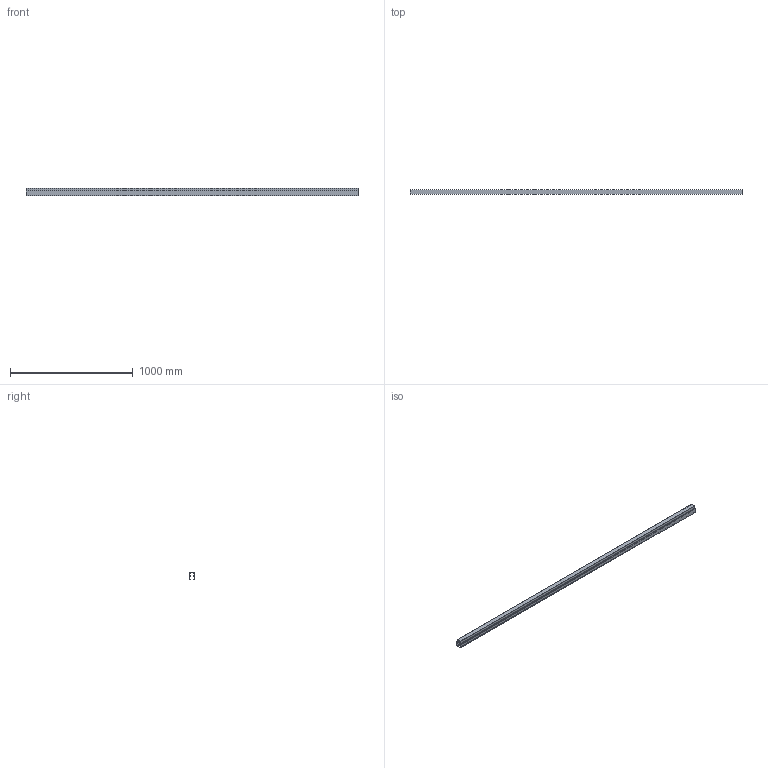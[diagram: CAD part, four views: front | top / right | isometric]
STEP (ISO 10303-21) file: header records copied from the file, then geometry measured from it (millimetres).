
FILE_DESCRIPTION(('STEP AP242'),'1');
FILE_NAME('OPO_65.084.02_volu_3d.stp','2026-02-23T17:27:52',(' '),(' '),'Spatial InterOp 3D',' ',' ');
FILE_SCHEMA(('AP242_MANAGED_MODEL_BASED_3D_ENGINEERING_MIM_LF {1 0 10303 442 1 1 4}'));
Length unit declared in the file: millimetre
Products named in the file (1): 1
Bounding box: 2700 x 40 x 64.5 mm (x, y, z)
Volume: 1595025 mm3; surface area: 1095447.1 mm2
Topology: 1 solids, 1 shells, 90 faces, 250 edges, 166 vertices
Faces by surface type: plane 70, cylinder 20
Entity records: 3594 total; most frequent: CARTESIAN_POINT 507, ORIENTED_EDGE 500, DIRECTION 472, EDGE_CURVE 250, LINE 210, VECTOR 210, VERTEX_POINT 166, AXIS2_PLACEMENT_3D 131
